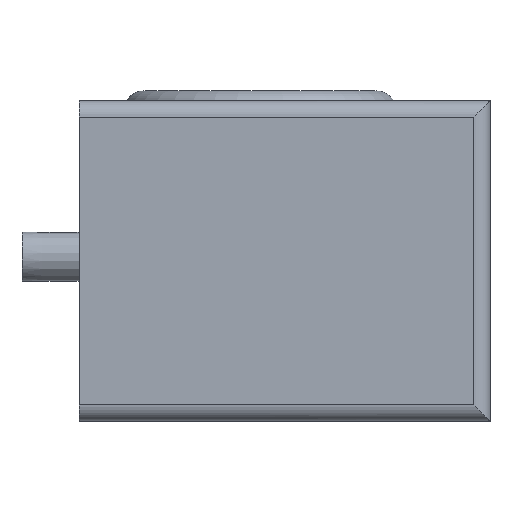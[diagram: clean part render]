
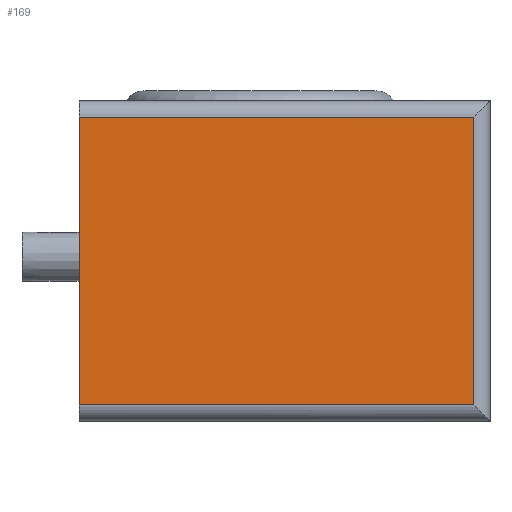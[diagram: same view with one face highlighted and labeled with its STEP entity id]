
A CAD part, left-side view. The second image highlights one B-rep face of the part: STEP entity #169.
In plain terms, the highlighted planar face has unit normal (-1, 0, 0).
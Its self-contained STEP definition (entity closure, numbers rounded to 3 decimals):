
#169=ADVANCED_FACE('',(#376),#377,.F.);
#376=FACE_OUTER_BOUND('',#612,.T.);
#377=PLANE('',#613);
#612=EDGE_LOOP('',(#997,#998,#999,#1000));
#613=AXIS2_PLACEMENT_3D('',#1001,#1002,#1003);
#997=ORIENTED_EDGE('',*,*,#1228,.T.);
#998=ORIENTED_EDGE('',*,*,#1245,.T.);
#999=ORIENTED_EDGE('',*,*,#1254,.T.);
#1000=ORIENTED_EDGE('',*,*,#1247,.T.);
#1001=CARTESIAN_POINT('',(-17.0,0.,9.5));
#1002=DIRECTION('',(1.0,0.0,0.0));
#1003=DIRECTION('',(0.0,1.0,0.0));
#1228=EDGE_CURVE('',#1440,#1438,#1441,.T.);
#1245=EDGE_CURVE('',#1438,#1464,#1466,.T.);
#1247=EDGE_CURVE('',#1468,#1440,#1469,.T.);
#1254=EDGE_CURVE('',#1464,#1468,#1478,.T.);
#1438=VERTEX_POINT('',#1706);
#1440=VERTEX_POINT('',#1708);
#1441=LINE('',#1709,#1710);
#1464=VERTEX_POINT('',#1739);
#1466=LINE('',#1741,#1742);
#1468=VERTEX_POINT('',#1744);
#1469=LINE('',#1745,#1746);
#1478=LINE('',#1758,#1759);
#1706=CARTESIAN_POINT('',(-17.0,0.,-9.0));
#1708=CARTESIAN_POINT('',(-17.0,0.,8.5));
#1709=CARTESIAN_POINT('',(-17.0,0.,9.5));
#1710=VECTOR('',#2026,1.0);
#1739=CARTESIAN_POINT('',(-17.0,-24.0,-9.0));
#1741=CARTESIAN_POINT('',(-17.0,0.,-9.0));
#1742=VECTOR('',#2051,1.0);
#1744=CARTESIAN_POINT('',(-17.0,-24.0,8.5));
#1745=CARTESIAN_POINT('',(-17.0,0.,8.5));
#1746=VECTOR('',#2052,1.0);
#1758=CARTESIAN_POINT('',(-17.0,-24.0,9.5));
#1759=VECTOR('',#2059,1.0);
#2026=DIRECTION('',(0.0,0.0,-1.0));
#2051=DIRECTION('',(0.0,-1.0,0.0));
#2052=DIRECTION('',(0.0,1.0,0.0));
#2059=DIRECTION('',(0.0,0.0,1.0));
